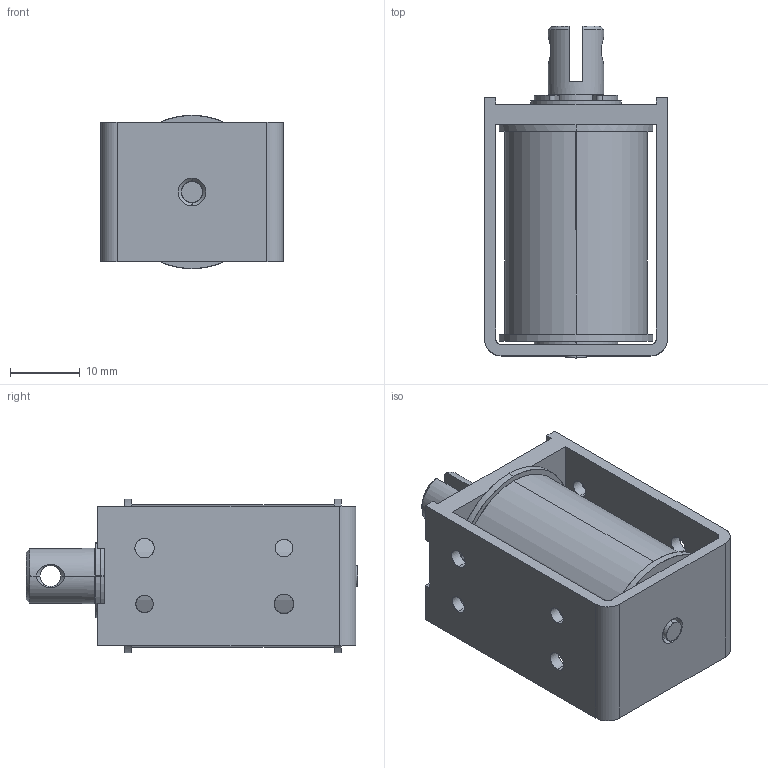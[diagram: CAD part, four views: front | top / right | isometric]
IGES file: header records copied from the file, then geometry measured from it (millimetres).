
Start section: SolidWorks IGES file using analytic representation for surfaces
Global section: file name: L:\カタログ\web用3Dデータ\CE0837\3D_CE0837\w_ce0837.IGS; native system: SolidWorks 2014; preprocessor: SolidWorks 2014; author: jiba; date: 140724.110446; units: millimetre
Bounding box: 26.2 x 47.59 x 22 mm (x, y, z)
Surface area: 9157.4 mm2 (no closed solid volume)
Topology: 0 solids, 0 shells, 137 faces, 2415 edges, 2415 vertices
Faces by surface type: revolution 82, bspline 55
